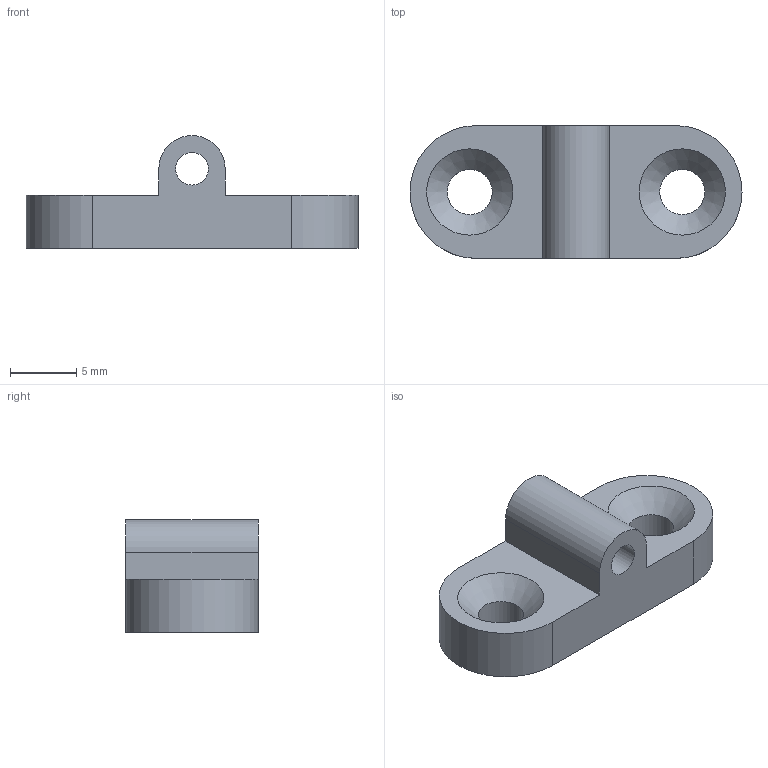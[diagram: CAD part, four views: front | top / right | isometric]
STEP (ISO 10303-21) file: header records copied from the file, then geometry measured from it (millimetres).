
FILE_DESCRIPTION(/* description */ ('Seat Spring Plunger'),/* implementation_level */ '2;1');
FILE_NAME(/* name */ 'Z:\Werkstatt Server\Projekte\Atlas\Entwicklung u. Konstruktion\Konstruktion\CAD Daten\ITkPixToolV2.0\Baremodule Jig\ITPTv2.01.00.09.stp',/* time_stamp */ '2021-08-06T14:54:17+02:00',/* author */ ('Tim Kanngießer'),/* organization */ (''),/* preprocessor_version */ 'ST-DEVELOPER v18.1',/* originating_system */ 'Autodesk Inventor 2022',/* authorisation */ '');
FILE_SCHEMA (('AUTOMOTIVE_DESIGN { 1 0 10303 214 3 1 1 }'));
Length unit declared in the file: millimetre
Products named in the file (1): ITPTv2.01.00.09
Bounding box: 25 x 10 x 8.5 mm (x, y, z)
Volume: 958.7 mm3; surface area: 914.7 mm2
Topology: 1 solids, 1 shells, 15 faces, 37 edges, 24 vertices
Faces by surface type: plane 7, cylinder 6, cone 2
Full cylindrical faces by diameter (mm): 2.459 x1, 3.4 x2
Entity records: 502 total; most frequent: DIRECTION 83, CARTESIAN_POINT 77, ORIENTED_EDGE 74, EDGE_CURVE 37, AXIS2_PLACEMENT_3D 30, VERTEX_POINT 24, LINE 23, VECTOR 23
